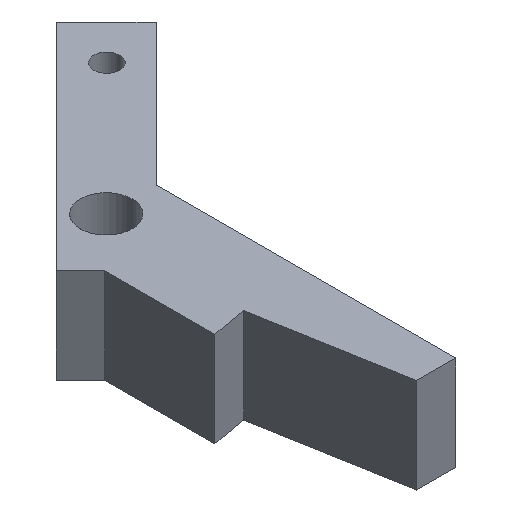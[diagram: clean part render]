
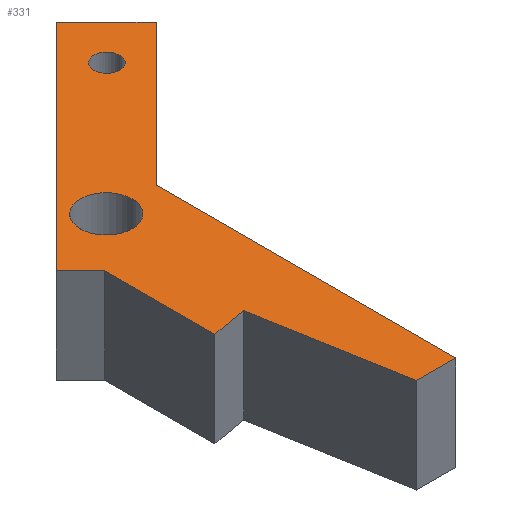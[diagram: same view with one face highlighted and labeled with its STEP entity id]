
A CAD part, isometric view. The second image highlights one B-rep face of the part: STEP entity #331.
In plain terms, the highlighted planar face has unit normal (0, 0, 1).
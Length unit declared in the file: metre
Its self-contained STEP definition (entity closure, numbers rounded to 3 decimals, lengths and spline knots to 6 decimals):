
#16 = DIRECTION ( 'NONE',  ( 0., 0., 1. ) ) ;
#37 = ORIENTED_EDGE ( 'NONE', *, *, #455, .T. ) ;
#42 = ORIENTED_EDGE ( 'NONE', *, *, #49, .F. ) ;
#49 = EDGE_CURVE ( 'NONE', #342, #452, #576, .T. ) ;
#54 = DIRECTION ( 'NONE',  ( 0., -1., 0. ) ) ;
#62 = ORIENTED_EDGE ( 'NONE', *, *, #670, .F. ) ;
#70 = EDGE_CURVE ( 'NONE', #730, #432, #122, .T. ) ;
#71 = CARTESIAN_POINT ( 'NONE',  ( -0.001506, -0.000265, 0.0095 ) ) ;
#74 = CARTESIAN_POINT ( 'NONE',  ( 0., 0.015, 0.0095 ) ) ;
#76 = ORIENTED_EDGE ( 'NONE', *, *, #436, .F. ) ;
#96 = VECTOR ( 'NONE', #579, 1. ) ;
#111 = VERTEX_POINT ( 'NONE', #194 ) ;
#113 = AXIS2_PLACEMENT_3D ( 'NONE', #202, #258, #477 ) ;
#115 = CARTESIAN_POINT ( 'NONE',  ( -0.007425, 0.012575, 0.0095 ) ) ;
#122 = CIRCLE ( 'NONE', #147, 0.0026 ) ;
#125 = DIRECTION ( 'NONE',  ( 1., 0., 0. ) ) ;
#128 = EDGE_CURVE ( 'NONE', #494, #167, #177, .T. ) ;
#130 = LINE ( 'NONE', #641, #318 ) ;
#135 = VECTOR ( 'NONE', #54, 1. ) ;
#147 = AXIS2_PLACEMENT_3D ( 'NONE', #74, #16, #523 ) ;
#154 = ORIENTED_EDGE ( 'NONE', *, *, #275, .F. ) ;
#167 = VERTEX_POINT ( 'NONE', #486 ) ;
#172 = DIRECTION ( 'NONE',  ( 0.707, 0.707, 0. ) ) ;
#177 = CIRCLE ( 'NONE', #113, 0.0013 ) ;
#179 = LINE ( 'NONE', #513, #96 ) ;
#194 = CARTESIAN_POINT ( 'NONE',  ( -0.005, 0.010151, 0.0095 ) ) ;
#202 = CARTESIAN_POINT ( 'NONE',  ( 0.013132, 0.028081, 0.0095 ) ) ;
#203 = VECTOR ( 'NONE', #384, 1. ) ;
#214 = FACE_OUTER_BOUND ( 'NONE', #464, .T. ) ;
#215 = VERTEX_POINT ( 'NONE', #598 ) ;
#217 = VECTOR ( 'NONE', #618, 1. ) ;
#229 = CARTESIAN_POINT ( 'NONE',  ( 0.019142, 0.029142, 0.0095 ) ) ;
#230 = ORIENTED_EDGE ( 'NONE', *, *, #259, .T. ) ;
#238 = CARTESIAN_POINT ( 'NONE',  ( -0.005, -0.000882, 0.0095 ) ) ;
#248 = VERTEX_POINT ( 'NONE', #594 ) ;
#258 = DIRECTION ( 'NONE',  ( 0., 0., 1. ) ) ;
#259 = EDGE_CURVE ( 'NONE', #248, #395, #376, .T. ) ;
#266 = CIRCLE ( 'NONE', #355, 0.0026 ) ;
#275 = EDGE_CURVE ( 'NONE', #432, #730, #266, .T. ) ;
#276 = CARTESIAN_POINT ( 'NONE',  ( -0.001506, -0.000265, 0.0095 ) ) ;
#287 = CARTESIAN_POINT ( 'NONE',  ( 0.011832, 0.028081, 0.0095 ) ) ;
#297 = VECTOR ( 'NONE', #172, 1. ) ;
#304 = CIRCLE ( 'NONE', #521, 0.0013 ) ;
#318 = VECTOR ( 'NONE', #125, 1. ) ;
#321 = CARTESIAN_POINT ( 'NONE',  ( 0.005, 0.015, 0.0095 ) ) ;
#325 = DIRECTION ( 'NONE',  ( 1., 0., 0. ) ) ;
#327 = FACE_BOUND ( 'NONE', #501, .T. ) ;
#328 = EDGE_CURVE ( 'NONE', #215, #111, #447, .T. ) ;
#331 = ADVANCED_FACE ( 'NONE', ( #214, #327, #387 ), #451, .T. ) ;
#332 = DIRECTION ( 'NONE',  ( 1., 0., 0. ) ) ;
#333 = EDGE_LOOP ( 'NONE', ( #154, #553 ) ) ;
#337 = EDGE_CURVE ( 'NONE', #215, #606, #684, .T. ) ;
#342 = VERTEX_POINT ( 'NONE', #276 ) ;
#345 = CARTESIAN_POINT ( 'NONE',  ( 0.013132, 0.028081, 0.0095 ) ) ;
#348 = CARTESIAN_POINT ( 'NONE',  ( 0.005, -0.015, 0.0095 ) ) ;
#350 = EDGE_CURVE ( 'NONE', #111, #452, #504, .T. ) ;
#355 = AXIS2_PLACEMENT_3D ( 'NONE', #434, #664, #325 ) ;
#357 = DIRECTION ( 'NONE',  ( -0.985, -0.174, 0. ) ) ;
#376 = LINE ( 'NONE', #482, #458 ) ;
#384 = DIRECTION ( 'NONE',  ( 0.707, -0.707, 0. ) ) ;
#387 = FACE_BOUND ( 'NONE', #333, .T. ) ;
#390 = DIRECTION ( 'NONE',  ( 0., 0., 1. ) ) ;
#393 = VECTOR ( 'NONE', #534, 1. ) ;
#395 = VERTEX_POINT ( 'NONE', #229 ) ;
#431 = DIRECTION ( 'NONE',  ( 0.707, 0.707, 0. ) ) ;
#432 = VERTEX_POINT ( 'NONE', #639 ) ;
#434 = CARTESIAN_POINT ( 'NONE',  ( 0., 0.015, 0.0095 ) ) ;
#436 = EDGE_CURVE ( 'NONE', #167, #494, #304, .T. ) ;
#447 = LINE ( 'NONE', #563, #203 ) ;
#451 = PLANE ( 'NONE',  #614 ) ;
#452 = VERTEX_POINT ( 'NONE', #238 ) ;
#455 = EDGE_CURVE ( 'NONE', #557, #459, #130, .T. ) ;
#458 = VECTOR ( 'NONE', #431, 1. ) ;
#459 = VERTEX_POINT ( 'NONE', #348 ) ;
#460 = VECTOR ( 'NONE', #357, 1. ) ;
#464 = EDGE_LOOP ( 'NONE', ( #42, #62, #37, #700, #230, #559, #599, #736, #643 ) ) ;
#470 = DIRECTION ( 'NONE',  ( 1., 0., 0. ) ) ;
#477 = DIRECTION ( 'NONE',  ( 1., 0., 0. ) ) ;
#479 = EDGE_CURVE ( 'NONE', #606, #395, #179, .T. ) ;
#482 = CARTESIAN_POINT ( 'NONE',  ( -0.002425, 0.007575, 0.0095 ) ) ;
#486 = CARTESIAN_POINT ( 'NONE',  ( 0.014432, 0.028081, 0.0095 ) ) ;
#494 = VERTEX_POINT ( 'NONE', #287 ) ;
#500 = CARTESIAN_POINT ( 'NONE',  ( -0.005, 0.015, 0.0095 ) ) ;
#501 = EDGE_LOOP ( 'NONE', ( #617, #76 ) ) ;
#504 = LINE ( 'NONE', #500, #135 ) ;
#506 = CARTESIAN_POINT ( 'NONE',  ( -0.0026, 0.015, 0.0095 ) ) ;
#513 = CARTESIAN_POINT ( 'NONE',  ( 0.019142, 0.029142, 0.0095 ) ) ;
#521 = AXIS2_PLACEMENT_3D ( 'NONE', #345, #699, #470 ) ;
#523 = DIRECTION ( 'NONE',  ( 1., 0., 0. ) ) ;
#524 = CARTESIAN_POINT ( 'NONE',  ( 0.014142, 0.034142, 0.0095 ) ) ;
#534 = DIRECTION ( 'NONE',  ( 0., 1., 0. ) ) ;
#553 = ORIENTED_EDGE ( 'NONE', *, *, #70, .F. ) ;
#555 = CARTESIAN_POINT ( 'NONE',  ( 0.001099, -0.015038, 0.0095 ) ) ;
#557 = VERTEX_POINT ( 'NONE', #720 ) ;
#559 = ORIENTED_EDGE ( 'NONE', *, *, #479, .F. ) ;
#563 = CARTESIAN_POINT ( 'NONE',  ( -0.002425, 0.007575, 0.0095 ) ) ;
#576 = LINE ( 'NONE', #71, #460 ) ;
#579 = DIRECTION ( 'NONE',  ( 0.707, -0.707, 0. ) ) ;
#594 = CARTESIAN_POINT ( 'NONE',  ( 0.005, 0.015, 0.0095 ) ) ;
#598 = CARTESIAN_POINT ( 'NONE',  ( -0.007425, 0.012575, 0.0095 ) ) ;
#599 = ORIENTED_EDGE ( 'NONE', *, *, #337, .F. ) ;
#606 = VERTEX_POINT ( 'NONE', #524 ) ;
#607 = CARTESIAN_POINT ( 'NONE',  ( 0., 0., 0.0095 ) ) ;
#611 = EDGE_CURVE ( 'NONE', #459, #248, #655, .T. ) ;
#614 = AXIS2_PLACEMENT_3D ( 'NONE', #607, #390, #332 ) ;
#617 = ORIENTED_EDGE ( 'NONE', *, *, #128, .F. ) ;
#618 = DIRECTION ( 'NONE',  ( -0.174, 0.985, 0. ) ) ;
#639 = CARTESIAN_POINT ( 'NONE',  ( 0.0026, 0.015, 0.0095 ) ) ;
#641 = CARTESIAN_POINT ( 'NONE',  ( -0.005, -0.015, 0.0095 ) ) ;
#643 = ORIENTED_EDGE ( 'NONE', *, *, #350, .T. ) ;
#655 = LINE ( 'NONE', #321, #393 ) ;
#664 = DIRECTION ( 'NONE',  ( 0., 0., 1. ) ) ;
#670 = EDGE_CURVE ( 'NONE', #557, #342, #731, .T. ) ;
#684 = LINE ( 'NONE', #115, #297 ) ;
#699 = DIRECTION ( 'NONE',  ( 0., 0., 1. ) ) ;
#700 = ORIENTED_EDGE ( 'NONE', *, *, #611, .T. ) ;
#720 = CARTESIAN_POINT ( 'NONE',  ( 0.001093, -0.015, 0.0095 ) ) ;
#730 = VERTEX_POINT ( 'NONE', #506 ) ;
#731 = LINE ( 'NONE', #555, #217 ) ;
#736 = ORIENTED_EDGE ( 'NONE', *, *, #328, .T. ) ;
